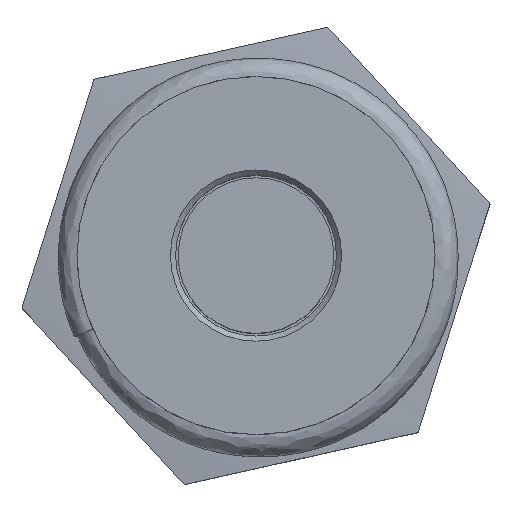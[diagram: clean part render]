
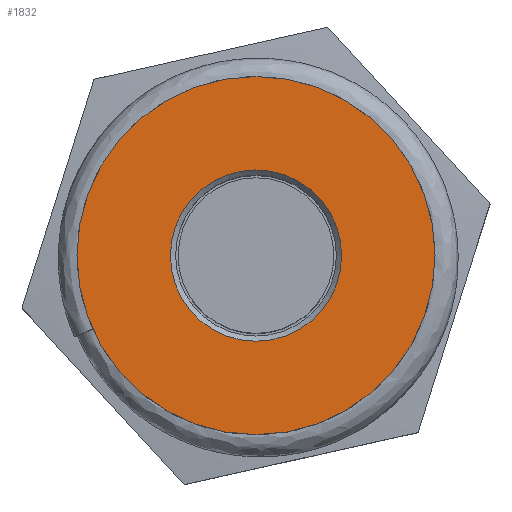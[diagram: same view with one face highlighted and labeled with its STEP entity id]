
A CAD part, top view. The second image highlights one B-rep face of the part: STEP entity #1832.
In plain terms, the highlighted planar face has unit normal (0, 0, 1).
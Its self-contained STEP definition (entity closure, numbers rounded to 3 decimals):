
#727=ORIENTED_EDGE('',*,*,#1038,.T.);
#728=ORIENTED_EDGE('',*,*,#1039,.F.);
#1038=EDGE_CURVE('',#1227,#1227,#1339,.T.);
#1039=EDGE_CURVE('',#1228,#1228,#1340,.T.);
#1227=VERTEX_POINT('',#3296);
#1228=VERTEX_POINT('',#3298);
#1339=CIRCLE('',#2048,1.65);
#1340=CIRCLE('',#2049,3.45);
#1457=EDGE_LOOP('',(#727));
#1458=EDGE_LOOP('',(#728));
#1620=FACE_BOUND('',#1457,.T.);
#1621=FACE_BOUND('',#1458,.T.);
#1737=PLANE('',#2047);
#1832=ADVANCED_FACE('',(#1620,#1621),#1737,.F.);
#2047=AXIS2_PLACEMENT_3D('',#3294,#2486,#2487);
#2048=AXIS2_PLACEMENT_3D('',#3295,#2488,#2489);
#2049=AXIS2_PLACEMENT_3D('',#3297,#2490,#2491);
#2486=DIRECTION('',(0.,0.,-1.));
#2487=DIRECTION('',(-1.,0.,0.));
#2488=DIRECTION('',(0.,0.,-1.));
#2489=DIRECTION('',(-1.,0.,0.));
#2490=DIRECTION('',(0.,0.,-1.));
#2491=DIRECTION('',(0.,1.,0.));
#3294=CARTESIAN_POINT('',(0.,0.,10.25));
#3295=CARTESIAN_POINT('',(0.,0.,10.25));
#3296=CARTESIAN_POINT('',(-1.65,0.,10.25));
#3297=CARTESIAN_POINT('',(0.,0.,10.25));
#3298=CARTESIAN_POINT('',(0.,3.45,10.25));
